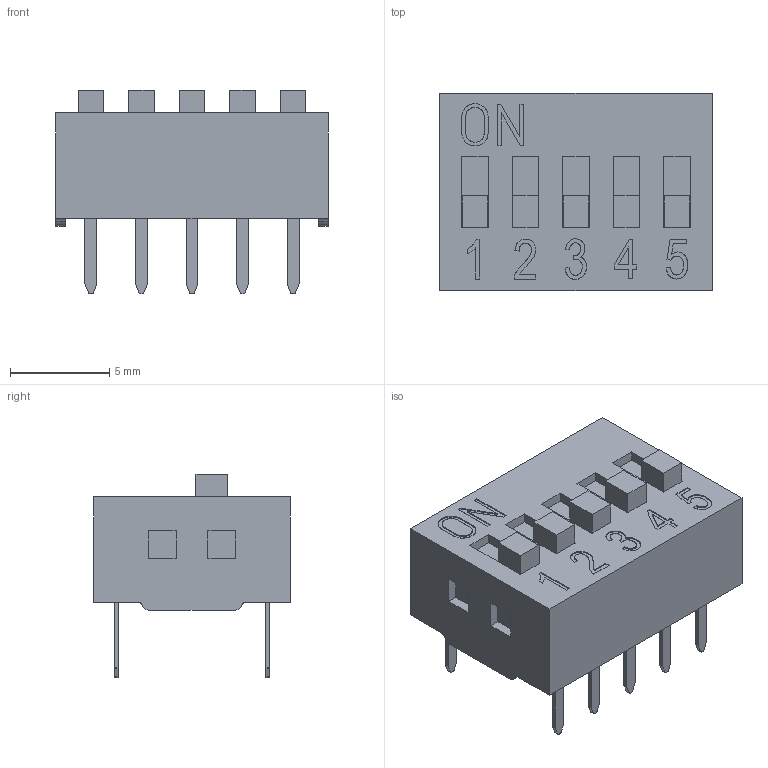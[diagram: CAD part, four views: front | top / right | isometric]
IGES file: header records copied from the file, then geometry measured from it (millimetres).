
Global section: file name: Filename.iges; native system: Open CASCADE 7.3; preprocessor: Open CASCADE IGES processor 7.3; date: 20200811.075220; units: millimetre
Bounding box: 13.7 x 9.9 x 10.25 mm (x, y, z)
Surface area: 1558.6 mm2 (no closed solid volume)
Topology: 0 solids, 0 shells, 409 faces, 2106 edges, 2106 vertices
Faces by surface type: plane 318, revolution 48, bspline 43
